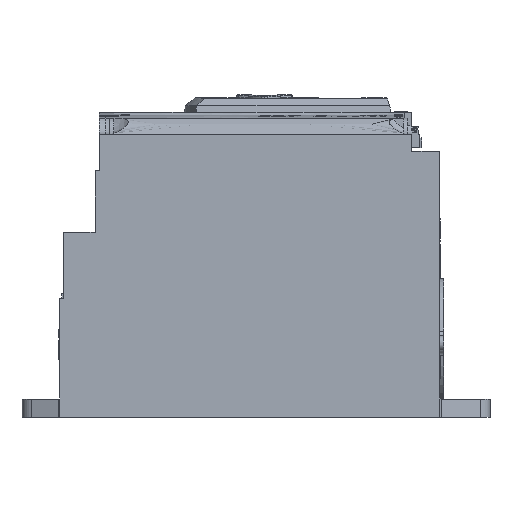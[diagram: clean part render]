
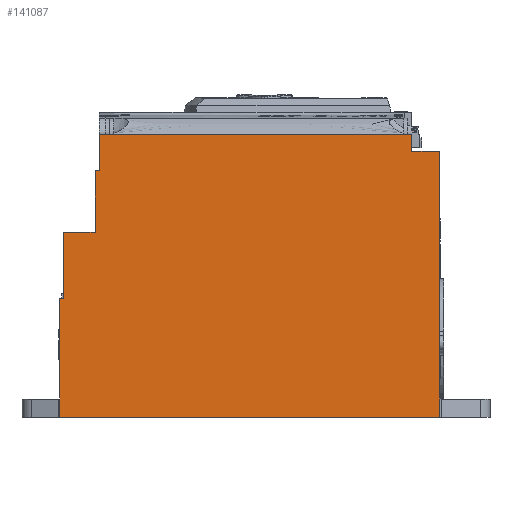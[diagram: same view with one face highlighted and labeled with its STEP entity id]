
A CAD part, left-side view. The second image highlights one B-rep face of the part: STEP entity #141087.
In plain terms, the highlighted planar face has unit normal (-1, 0, 0.009).
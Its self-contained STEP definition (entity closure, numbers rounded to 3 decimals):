
#567 = VECTOR ( 'NONE', #89698, 1000. ) ;
#3323 = LINE ( 'NONE', #69254, #52014 ) ;
#3618 = DIRECTION ( 'NONE',  ( 0., 1., 0. ) ) ;
#4285 = EDGE_CURVE ( 'NONE', #162571, #128065, #96365, .T. ) ;
#5360 = CARTESIAN_POINT ( 'NONE',  ( -74.494, -130., 191. ) ) ;
#5578 = CARTESIAN_POINT ( 'NONE',  ( -74.494, 0., 191. ) ) ;
#6342 = VECTOR ( 'NONE', #52326, 1000. ) ;
#6529 = ORIENTED_EDGE ( 'NONE', *, *, #161435, .T. ) ;
#6782 = CARTESIAN_POINT ( 'NONE',  ( -76.047, -130., 13. ) ) ;
#7046 = LINE ( 'NONE', #105705, #6342 ) ;
#7409 = VECTOR ( 'NONE', #148159, 1000. ) ;
#10308 = VECTOR ( 'NONE', #219284, 1000. ) ;
#15485 = DIRECTION ( 'NONE',  ( -0.009, 0., -1. ) ) ;
#15777 = LINE ( 'NONE', #130832, #7409 ) ;
#16756 = DIRECTION ( 'NONE',  ( -0.009, 0., -1. ) ) ;
#20370 = ORIENTED_EDGE ( 'NONE', *, *, #169009, .T. ) ;
#21978 = VERTEX_POINT ( 'NONE', #96434 ) ;
#22063 = EDGE_CURVE ( 'NONE', #158895, #113077, #218172, .T. ) ;
#24036 = PLANE ( 'NONE',  #73060 ) ;
#26130 = EDGE_CURVE ( 'NONE', #95706, #36720, #222534, .T. ) ;
#27384 = VECTOR ( 'NONE', #128109, 1000. ) ;
#30992 = CARTESIAN_POINT ( 'NONE',  ( -74.387, 0., 203.215 ) ) ;
#31142 = VERTEX_POINT ( 'NONE', #149282 ) ;
#34168 = EDGE_CURVE ( 'NONE', #212829, #176712, #3323, .T. ) ;
#36720 = VERTEX_POINT ( 'NONE', #73345 ) ;
#41184 = LINE ( 'NONE', #102526, #41364 ) ;
#41364 = VECTOR ( 'NONE', #15485, 1000. ) ;
#43564 = LINE ( 'NONE', #213807, #27384 ) ;
#45334 = ORIENTED_EDGE ( 'NONE', *, *, #141949, .T. ) ;
#47374 = ORIENTED_EDGE ( 'NONE', *, *, #86667, .T. ) ;
#48180 = EDGE_CURVE ( 'NONE', #128065, #91069, #194537, .T. ) ;
#52014 = VECTOR ( 'NONE', #69216, 1000. ) ;
#52326 = DIRECTION ( 'NONE',  ( 0.009, 0., 1. ) ) ;
#53199 = CARTESIAN_POINT ( 'NONE',  ( -76.161, 143., 0. ) ) ;
#61677 = EDGE_CURVE ( 'NONE', #21978, #36720, #118112, .T. ) ;
#61985 = LINE ( 'NONE', #30992, #10308 ) ;
#63579 = DIRECTION ( 'NONE',  ( 0.009, 0., 1. ) ) ;
#64013 = ORIENTED_EDGE ( 'NONE', *, *, #178774, .T. ) ;
#64910 = ORIENTED_EDGE ( 'NONE', *, *, #135442, .T. ) ;
#69216 = DIRECTION ( 'NONE',  ( 0., -1., 0. ) ) ;
#69254 = CARTESIAN_POINT ( 'NONE',  ( -76.161, 0., 0. ) ) ;
#73060 = AXIS2_PLACEMENT_3D ( 'NONE', #198181, #95130, #215409 ) ;
#73345 = CARTESIAN_POINT ( 'NONE',  ( -75.003, 140., 132.7 ) ) ;
#74206 = ORIENTED_EDGE ( 'NONE', *, *, #34168, .T. ) ;
#74824 = DIRECTION ( 'NONE',  ( -0.009, 0., -1. ) ) ;
#77656 = VECTOR ( 'NONE', #74824, 1000. ) ;
#82999 = DIRECTION ( 'NONE',  ( 0.009, 0., 1. ) ) ;
#83446 = CARTESIAN_POINT ( 'NONE',  ( -75.415, 140., 85.5 ) ) ;
#83812 = DIRECTION ( 'NONE',  ( 0., 1., 0. ) ) ;
#86667 = EDGE_CURVE ( 'NONE', #91069, #112290, #61985, .T. ) ;
#86837 = CARTESIAN_POINT ( 'NONE',  ( -74.616, 114.5, 177. ) ) ;
#88978 = VERTEX_POINT ( 'NONE', #6782 ) ;
#89698 = DIRECTION ( 'NONE',  ( 0., 1., 0. ) ) ;
#89952 = CARTESIAN_POINT ( 'NONE',  ( -74.616, 0., 177. ) ) ;
#91069 = VERTEX_POINT ( 'NONE', #188230 ) ;
#91653 = VECTOR ( 'NONE', #3618, 1000. ) ;
#93432 = CARTESIAN_POINT ( 'NONE',  ( -74.387, 0., 203.215 ) ) ;
#95130 = DIRECTION ( 'NONE',  ( -1., 0., 0.009 ) ) ;
#95706 = VERTEX_POINT ( 'NONE', #184632 ) ;
#96365 = LINE ( 'NONE', #5578, #91653 ) ;
#96434 = CARTESIAN_POINT ( 'NONE',  ( -75.415, 140., 85.5 ) ) ;
#98808 = LINE ( 'NONE', #178124, #77656 ) ;
#100555 = VERTEX_POINT ( 'NONE', #183468 ) ;
#102526 = CARTESIAN_POINT ( 'NONE',  ( -75., 143., 133. ) ) ;
#103061 = ORIENTED_EDGE ( 'NONE', *, *, #4285, .T. ) ;
#103789 = CARTESIAN_POINT ( 'NONE',  ( -75., 114.5, 133. ) ) ;
#105705 = CARTESIAN_POINT ( 'NONE',  ( -75., -130., 133. ) ) ;
#108457 = CARTESIAN_POINT ( 'NONE',  ( -76.047, 143., 13. ) ) ;
#110046 = DIRECTION ( 'NONE',  ( 0., 1., 0. ) ) ;
#112290 = VERTEX_POINT ( 'NONE', #136793 ) ;
#113077 = VERTEX_POINT ( 'NONE', #125738 ) ;
#118112 = LINE ( 'NONE', #83446, #119114 ) ;
#119114 = VECTOR ( 'NONE', #82999, 1000. ) ;
#123647 = VECTOR ( 'NONE', #16756, 1000. ) ;
#125738 = CARTESIAN_POINT ( 'NONE',  ( -74.616, 117.5, 177. ) ) ;
#128065 = VERTEX_POINT ( 'NONE', #216877 ) ;
#128109 = DIRECTION ( 'NONE',  ( 0.009, 0., 1. ) ) ;
#128383 = EDGE_CURVE ( 'NONE', #198561, #100555, #43564, .T. ) ;
#130407 = LINE ( 'NONE', #103789, #123647 ) ;
#130832 = CARTESIAN_POINT ( 'NONE',  ( -75.415, 0., 85.5 ) ) ;
#135442 = EDGE_CURVE ( 'NONE', #21978, #100555, #15777, .T. ) ;
#136793 = CARTESIAN_POINT ( 'NONE',  ( -74.387, 109.9, 203.215 ) ) ;
#141087 = ADVANCED_FACE ( 'NONE', ( #205150 ), #24036, .T. ) ;
#141949 = EDGE_CURVE ( 'NONE', #31142, #158895, #130407, .T. ) ;
#148159 = DIRECTION ( 'NONE',  ( 0., 1., 0. ) ) ;
#149282 = CARTESIAN_POINT ( 'NONE',  ( -74.387, 114.5, 203.215 ) ) ;
#158895 = VERTEX_POINT ( 'NONE', #86837 ) ;
#159443 = EDGE_CURVE ( 'NONE', #198561, #212829, #41184, .T. ) ;
#161435 = EDGE_CURVE ( 'NONE', #113077, #95706, #98808, .T. ) ;
#162571 = VERTEX_POINT ( 'NONE', #5360 ) ;
#164160 = VECTOR ( 'NONE', #63579, 1000. ) ;
#166492 = VECTOR ( 'NONE', #110046, 1000. ) ;
#167397 = LINE ( 'NONE', #93432, #166492 ) ;
#169009 = EDGE_CURVE ( 'NONE', #112290, #31142, #167397, .T. ) ;
#175923 = ORIENTED_EDGE ( 'NONE', *, *, #22063, .T. ) ;
#176712 = VERTEX_POINT ( 'NONE', #217717 ) ;
#178124 = CARTESIAN_POINT ( 'NONE',  ( -74.616, 117.5, 177. ) ) ;
#178774 = EDGE_CURVE ( 'NONE', #88978, #162571, #204876, .T. ) ;
#180377 = EDGE_LOOP ( 'NONE', ( #224558, #64910, #183653, #200489, #74206, #185969, #64013, #103061, #212485, #47374, #20370, #45334, #175923, #6529, #212298 ) ) ;
#183468 = CARTESIAN_POINT ( 'NONE',  ( -75.415, 143., 85.5 ) ) ;
#183653 = ORIENTED_EDGE ( 'NONE', *, *, #128383, .F. ) ;
#184398 = CARTESIAN_POINT ( 'NONE',  ( -75., -130., 133. ) ) ;
#184632 = CARTESIAN_POINT ( 'NONE',  ( -75.003, 117.5, 132.7 ) ) ;
#185969 = ORIENTED_EDGE ( 'NONE', *, *, #224037, .T. ) ;
#187809 = CARTESIAN_POINT ( 'NONE',  ( -75.003, 0., 132.7 ) ) ;
#188230 = CARTESIAN_POINT ( 'NONE',  ( -74.387, -110., 203.215 ) ) ;
#194125 = VECTOR ( 'NONE', #215116, 1000. ) ;
#194537 = LINE ( 'NONE', #197129, #194125 ) ;
#197129 = CARTESIAN_POINT ( 'NONE',  ( -74.494, -110., 191. ) ) ;
#198181 = CARTESIAN_POINT ( 'NONE',  ( -75., 0., 133. ) ) ;
#198561 = VERTEX_POINT ( 'NONE', #108457 ) ;
#200489 = ORIENTED_EDGE ( 'NONE', *, *, #159443, .T. ) ;
#204876 = LINE ( 'NONE', #184398, #164160 ) ;
#205150 = FACE_OUTER_BOUND ( 'NONE', #180377, .T. ) ;
#212298 = ORIENTED_EDGE ( 'NONE', *, *, #26130, .T. ) ;
#212485 = ORIENTED_EDGE ( 'NONE', *, *, #48180, .T. ) ;
#212829 = VERTEX_POINT ( 'NONE', #53199 ) ;
#213807 = CARTESIAN_POINT ( 'NONE',  ( -76.047, 143., 13. ) ) ;
#215116 = DIRECTION ( 'NONE',  ( 0.009, 0., 1. ) ) ;
#215409 = DIRECTION ( 'NONE',  ( 0.009, 0., 1. ) ) ;
#216877 = CARTESIAN_POINT ( 'NONE',  ( -74.494, -110., 191. ) ) ;
#217717 = CARTESIAN_POINT ( 'NONE',  ( -76.161, -130., 0. ) ) ;
#218172 = LINE ( 'NONE', #89952, #567 ) ;
#219284 = DIRECTION ( 'NONE',  ( 0., 1., 0. ) ) ;
#222320 = VECTOR ( 'NONE', #83812, 1000. ) ;
#222534 = LINE ( 'NONE', #187809, #222320 ) ;
#224037 = EDGE_CURVE ( 'NONE', #176712, #88978, #7046, .T. ) ;
#224558 = ORIENTED_EDGE ( 'NONE', *, *, #61677, .F. ) ;
